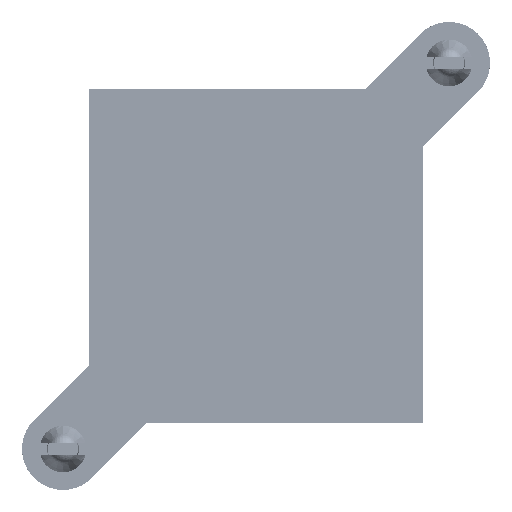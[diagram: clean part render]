
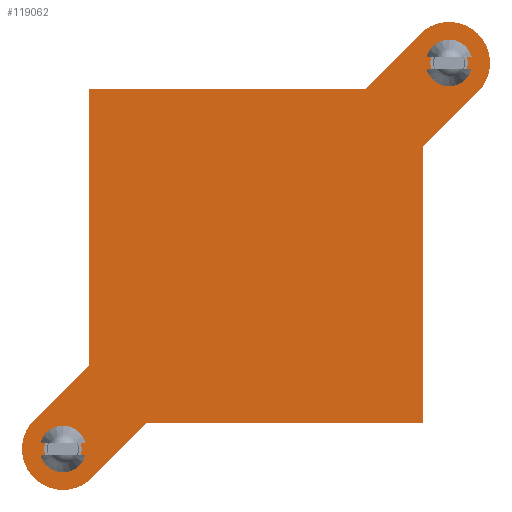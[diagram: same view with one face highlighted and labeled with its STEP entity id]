
A CAD part, front view. The second image highlights one B-rep face of the part: STEP entity #119062.
In plain terms, the highlighted planar face has unit normal (0, -1, 0).
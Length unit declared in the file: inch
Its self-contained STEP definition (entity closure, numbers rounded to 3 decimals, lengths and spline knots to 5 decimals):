
#7002 = VECTOR ( 'NONE', #225508, 39.37008 ) ;
#7426 = PLANE ( 'NONE',  #214977 ) ;
#8775 = DIRECTION ( 'NONE',  ( 0., 0., -1. ) ) ;
#8816 = CARTESIAN_POINT ( 'NONE',  ( 0.74704, 0., 0.55217 ) ) ;
#9076 = FACE_OUTER_BOUND ( 'NONE', #70229, .T. ) ;
#10750 = VERTEX_POINT ( 'NONE', #64435 ) ;
#16339 = CARTESIAN_POINT ( 'NONE',  ( -0.64961, 0., -0.58661 ) ) ;
#16741 = CARTESIAN_POINT ( 'NONE',  ( -0.64961, 0., -0.64961 ) ) ;
#20367 = CARTESIAN_POINT ( 'NONE',  ( 0.56102, 0., 0.36615 ) ) ;
#30047 = DIRECTION ( 'NONE',  ( 0., 0., -1. ) ) ;
#34323 = DIRECTION ( 'NONE',  ( 0., 1., 0. ) ) ;
#41643 = ORIENTED_EDGE ( 'NONE', *, *, #61973, .T. ) ;
#42074 = EDGE_CURVE ( 'NONE', #102880, #172291, #126525, .T. ) ;
#42808 = DIRECTION ( 'NONE',  ( 0., 0., -1. ) ) ;
#45412 = DIRECTION ( 'NONE',  ( 1., 0., 0. ) ) ;
#47277 = CARTESIAN_POINT ( 'NONE',  ( 0.56102, 0., -0.64961 ) ) ;
#57081 = DIRECTION ( 'NONE',  ( 0., 1., 0. ) ) ;
#59843 = FACE_BOUND ( 'NONE', #63218, .T. ) ;
#61973 = EDGE_CURVE ( 'NONE', #174643, #98104, #286930, .T. ) ;
#63218 = EDGE_LOOP ( 'NONE', ( #271101, #178780 ) ) ;
#64069 = CARTESIAN_POINT ( 'NONE',  ( -0.56102, 0., -0.64961 ) ) ;
#64435 = CARTESIAN_POINT ( 'NONE',  ( -0.55217, 0., -0.74704 ) ) ;
#64766 = CARTESIAN_POINT ( 'NONE',  ( -0.56102, 0., -0.36615 ) ) ;
#65111 = AXIS2_PLACEMENT_3D ( 'NONE', #232413, #181595, #262735 ) ;
#68178 = AXIS2_PLACEMENT_3D ( 'NONE', #121153, #276768, #73758 ) ;
#69529 = CARTESIAN_POINT ( 'NONE',  ( -0.56102, 0., 0.56102 ) ) ;
#69966 = EDGE_CURVE ( 'NONE', #172291, #251248, #278994, .T. ) ;
#70229 = EDGE_LOOP ( 'NONE', ( #257227, #180294, #119359, #204260, #254221, #218280, #103434, #310961, #83397, #157912, #316781 ) ) ;
#71408 = VERTEX_POINT ( 'NONE', #270289 ) ;
#72821 = VERTEX_POINT ( 'NONE', #86674 ) ;
#73758 = DIRECTION ( 'NONE',  ( 0., 0., -1. ) ) ;
#75450 = VECTOR ( 'NONE', #150389, 39.37008 ) ;
#78887 = CARTESIAN_POINT ( 'NONE',  ( -0.74704, 0., -0.55217 ) ) ;
#79683 = VECTOR ( 'NONE', #162202, 39.37008 ) ;
#83397 = ORIENTED_EDGE ( 'NONE', *, *, #273148, .T. ) ;
#86674 = CARTESIAN_POINT ( 'NONE',  ( 0.64961, 0., 0.7126 ) ) ;
#89384 = VERTEX_POINT ( 'NONE', #64766 ) ;
#90971 = CARTESIAN_POINT ( 'NONE',  ( -0.36615, 0., -0.56102 ) ) ;
#91096 = EDGE_CURVE ( 'NONE', #251248, #290416, #221730, .T. ) ;
#93398 = CARTESIAN_POINT ( 'NONE',  ( 0.56102, 0., 0.36615 ) ) ;
#98104 = VERTEX_POINT ( 'NONE', #16339 ) ;
#98213 = EDGE_CURVE ( 'NONE', #98104, #174643, #278743, .T. ) ;
#100322 = VERTEX_POINT ( 'NONE', #214685 ) ;
#101156 = CARTESIAN_POINT ( 'NONE',  ( -0.64961, 0., -0.7126 ) ) ;
#102880 = VERTEX_POINT ( 'NONE', #90971 ) ;
#103434 = ORIENTED_EDGE ( 'NONE', *, *, #267283, .T. ) ;
#109827 = LINE ( 'NONE', #214694, #79683 ) ;
#117692 = EDGE_LOOP ( 'NONE', ( #41643, #294707 ) ) ;
#118942 = CARTESIAN_POINT ( 'NONE',  ( 0.64961, 0., 0.64961 ) ) ;
#119062 = ADVANCED_FACE ( 'NONE', ( #215428, #9076, #59843 ), #7426, .T. ) ;
#119262 = EDGE_CURVE ( 'NONE', #290416, #100322, #123001, .T. ) ;
#119359 = ORIENTED_EDGE ( 'NONE', *, *, #69966, .T. ) ;
#120927 = CARTESIAN_POINT ( 'NONE',  ( -0.56102, 0., -0.36615 ) ) ;
#121153 = CARTESIAN_POINT ( 'NONE',  ( -0.64961, 0., -0.64961 ) ) ;
#123001 = CIRCLE ( 'NONE', #312041, 0.1378 ) ;
#126525 = LINE ( 'NONE', #332853, #159155 ) ;
#139227 = VERTEX_POINT ( 'NONE', #69529 ) ;
#150389 = DIRECTION ( 'NONE',  ( 0., 0., 1. ) ) ;
#152766 = VECTOR ( 'NONE', #224143, 39.37008 ) ;
#153982 = VERTEX_POINT ( 'NONE', #78887 ) ;
#157912 = ORIENTED_EDGE ( 'NONE', *, *, #326832, .T. ) ;
#159155 = VECTOR ( 'NONE', #45412, 39.37008 ) ;
#161814 = VECTOR ( 'NONE', #175892, 39.37008 ) ;
#162202 = DIRECTION ( 'NONE',  ( -1., 0., 0. ) ) ;
#172291 = VERTEX_POINT ( 'NONE', #313636 ) ;
#174643 = VERTEX_POINT ( 'NONE', #101156 ) ;
#175892 = DIRECTION ( 'NONE',  ( 0.707, 0., 0.707 ) ) ;
#176915 = CARTESIAN_POINT ( 'NONE',  ( -0.64961, 0., -0.64961 ) ) ;
#178336 = CIRCLE ( 'NONE', #65111, 0.1378 ) ;
#178780 = ORIENTED_EDGE ( 'NONE', *, *, #276820, .T. ) ;
#180294 = ORIENTED_EDGE ( 'NONE', *, *, #42074, .T. ) ;
#181595 = DIRECTION ( 'NONE',  ( 0., -1., 0. ) ) ;
#181966 = DIRECTION ( 'NONE',  ( 0., 0., -1. ) ) ;
#188725 = AXIS2_PLACEMENT_3D ( 'NONE', #269337, #34323, #181966 ) ;
#198960 = CARTESIAN_POINT ( 'NONE',  ( 0.55217, 0., 0.74704 ) ) ;
#204260 = ORIENTED_EDGE ( 'NONE', *, *, #91096, .T. ) ;
#208794 = CARTESIAN_POINT ( 'NONE',  ( -0.64961, 0., -0.64961 ) ) ;
#210092 = EDGE_CURVE ( 'NONE', #71408, #10750, #250875, .T. ) ;
#210316 = CARTESIAN_POINT ( 'NONE',  ( 0.36615, 0., 0.56102 ) ) ;
#211007 = CARTESIAN_POINT ( 'NONE',  ( 0.64961, 0., 0.64961 ) ) ;
#213715 = VERTEX_POINT ( 'NONE', #210316 ) ;
#214685 = CARTESIAN_POINT ( 'NONE',  ( 0.55217, 0., 0.74704 ) ) ;
#214694 = CARTESIAN_POINT ( 'NONE',  ( -0.64961, 0., 0.56102 ) ) ;
#214977 = AXIS2_PLACEMENT_3D ( 'NONE', #208794, #235847, #234193 ) ;
#215428 = FACE_BOUND ( 'NONE', #117692, .T. ) ;
#218280 = ORIENTED_EDGE ( 'NONE', *, *, #246107, .T. ) ;
#221730 = LINE ( 'NONE', #20367, #161814 ) ;
#223064 = LINE ( 'NONE', #64069, #312253 ) ;
#224143 = DIRECTION ( 'NONE',  ( -0.707, 0., -0.707 ) ) ;
#225508 = DIRECTION ( 'NONE',  ( 0.707, 0., 0.707 ) ) ;
#227180 = CARTESIAN_POINT ( 'NONE',  ( -0.55217, 0., -0.74704 ) ) ;
#231067 = DIRECTION ( 'NONE',  ( 0., 0., -1. ) ) ;
#232413 = CARTESIAN_POINT ( 'NONE',  ( -0.64961, 0., -0.64961 ) ) ;
#234193 = DIRECTION ( 'NONE',  ( 0., 0., -1. ) ) ;
#235847 = DIRECTION ( 'NONE',  ( 0., -1., 0. ) ) ;
#246107 = EDGE_CURVE ( 'NONE', #100322, #213715, #327517, .T. ) ;
#249209 = LINE ( 'NONE', #227180, #7002 ) ;
#249271 = AXIS2_PLACEMENT_3D ( 'NONE', #16741, #300861, #8775 ) ;
#250875 = CIRCLE ( 'NONE', #277918, 0.1378 ) ;
#251248 = VERTEX_POINT ( 'NONE', #93398 ) ;
#252445 = VERTEX_POINT ( 'NONE', #310625 ) ;
#254221 = ORIENTED_EDGE ( 'NONE', *, *, #119262, .T. ) ;
#257227 = ORIENTED_EDGE ( 'NONE', *, *, #295240, .T. ) ;
#257446 = EDGE_CURVE ( 'NONE', #252445, #72821, #301636, .T. ) ;
#257815 = LINE ( 'NONE', #120927, #152766 ) ;
#262735 = DIRECTION ( 'NONE',  ( 0., 0., -1. ) ) ;
#267283 = EDGE_CURVE ( 'NONE', #213715, #139227, #109827, .T. ) ;
#269337 = CARTESIAN_POINT ( 'NONE',  ( 0.64961, 0., 0.64961 ) ) ;
#270289 = CARTESIAN_POINT ( 'NONE',  ( -0.64961, 0., -0.7874 ) ) ;
#271101 = ORIENTED_EDGE ( 'NONE', *, *, #257446, .T. ) ;
#273148 = EDGE_CURVE ( 'NONE', #89384, #153982, #257815, .T. ) ;
#274526 = DIRECTION ( 'NONE',  ( 0., -1., 0. ) ) ;
#276768 = DIRECTION ( 'NONE',  ( 0., 1., 0. ) ) ;
#276820 = EDGE_CURVE ( 'NONE', #72821, #252445, #334573, .T. ) ;
#277918 = AXIS2_PLACEMENT_3D ( 'NONE', #176915, #334192, #231067 ) ;
#278743 = CIRCLE ( 'NONE', #68178, 0.06299 ) ;
#278994 = LINE ( 'NONE', #47277, #75450 ) ;
#280167 = AXIS2_PLACEMENT_3D ( 'NONE', #211007, #57081, #30047 ) ;
#286930 = CIRCLE ( 'NONE', #249271, 0.06299 ) ;
#290416 = VERTEX_POINT ( 'NONE', #8816 ) ;
#294707 = ORIENTED_EDGE ( 'NONE', *, *, #98213, .T. ) ;
#295240 = EDGE_CURVE ( 'NONE', #10750, #102880, #249209, .T. ) ;
#300861 = DIRECTION ( 'NONE',  ( 0., 1., 0. ) ) ;
#301636 = CIRCLE ( 'NONE', #280167, 0.06299 ) ;
#302170 = DIRECTION ( 'NONE',  ( -0.707, 0., -0.707 ) ) ;
#310625 = CARTESIAN_POINT ( 'NONE',  ( 0.64961, 0., 0.58661 ) ) ;
#310961 = ORIENTED_EDGE ( 'NONE', *, *, #315409, .T. ) ;
#312041 = AXIS2_PLACEMENT_3D ( 'NONE', #118942, #274526, #42808 ) ;
#312253 = VECTOR ( 'NONE', #321156, 39.37008 ) ;
#313636 = CARTESIAN_POINT ( 'NONE',  ( 0.56102, 0., -0.56102 ) ) ;
#315409 = EDGE_CURVE ( 'NONE', #139227, #89384, #223064, .T. ) ;
#316781 = ORIENTED_EDGE ( 'NONE', *, *, #210092, .T. ) ;
#321156 = DIRECTION ( 'NONE',  ( 0., 0., -1. ) ) ;
#326832 = EDGE_CURVE ( 'NONE', #153982, #71408, #178336, .T. ) ;
#327517 = LINE ( 'NONE', #198960, #330354 ) ;
#330354 = VECTOR ( 'NONE', #302170, 39.37008 ) ;
#332853 = CARTESIAN_POINT ( 'NONE',  ( -0.64961, 0., -0.56102 ) ) ;
#334192 = DIRECTION ( 'NONE',  ( 0., -1., 0. ) ) ;
#334573 = CIRCLE ( 'NONE', #188725, 0.06299 ) ;
